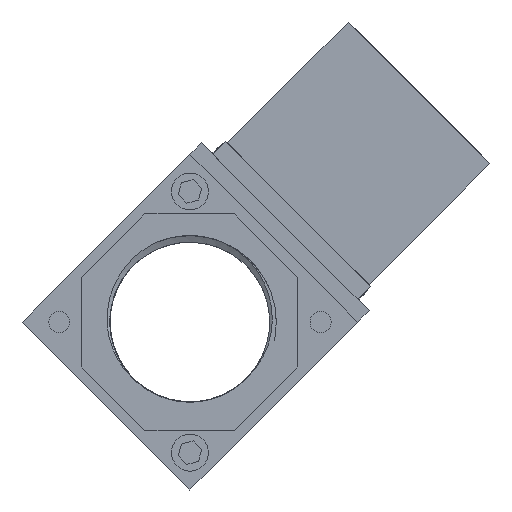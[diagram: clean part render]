
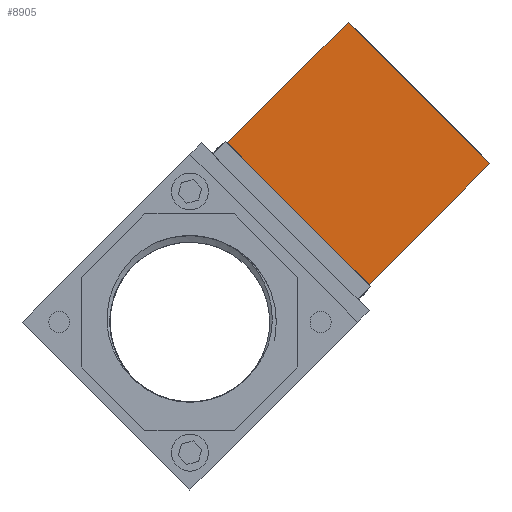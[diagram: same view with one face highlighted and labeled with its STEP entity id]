
A CAD part, left-side view. The second image highlights one B-rep face of the part: STEP entity #8905.
In plain terms, the highlighted planar face has unit normal (-1, 0, 0) as drawn and (1, 0, 0) by its records, which use the part's own axes.
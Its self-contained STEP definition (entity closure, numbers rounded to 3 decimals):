
#350 = LINE ( 'NONE', #3599, #14529 ) ;
#1004 = VERTEX_POINT ( 'NONE', #17317 ) ;
#1046 = EDGE_LOOP ( 'NONE', ( #15970, #2780, #10162, #20036 ) ) ;
#1639 = CARTESIAN_POINT ( 'NONE',  ( 57., 0., 38. ) ) ;
#1774 = DIRECTION ( 'NONE',  ( 0., 0., -1. ) ) ;
#2747 = LINE ( 'NONE', #4069, #11318 ) ;
#2780 = ORIENTED_EDGE ( 'NONE', *, *, #3190, .F. ) ;
#3041 = VERTEX_POINT ( 'NONE', #5398 ) ;
#3190 = EDGE_CURVE ( 'NONE', #1004, #3041, #350, .T. ) ;
#3599 = CARTESIAN_POINT ( 'NONE',  ( 57., 32.4, 38. ) ) ;
#4057 = EDGE_CURVE ( 'NONE', #11671, #3041, #19565, .T. ) ;
#4069 = CARTESIAN_POINT ( 'NONE',  ( 57., 0., 38. ) ) ;
#4595 = FACE_OUTER_BOUND ( 'NONE', #1046, .T. ) ;
#4922 = CARTESIAN_POINT ( 'NONE',  ( 57., 0., 0. ) ) ;
#5398 = CARTESIAN_POINT ( 'NONE',  ( 57., 32.4, 0. ) ) ;
#5486 = CARTESIAN_POINT ( 'NONE',  ( 57., 0., 0. ) ) ;
#6229 = DIRECTION ( 'NONE',  ( -1., 0., 0. ) ) ;
#7764 = PLANE ( 'NONE',  #12974 ) ;
#8542 = DIRECTION ( 'NONE',  ( 0., 1., 0. ) ) ;
#8905 = ADVANCED_FACE ( 'NONE', ( #4595 ), #7764, .F. ) ;
#9145 = DIRECTION ( 'NONE',  ( 0., 1., 0. ) ) ;
#9872 = DIRECTION ( 'NONE',  ( 0., 0., 1. ) ) ;
#10162 = ORIENTED_EDGE ( 'NONE', *, *, #15759, .F. ) ;
#10876 = CARTESIAN_POINT ( 'NONE',  ( 57., 0., 38. ) ) ;
#11318 = VECTOR ( 'NONE', #13353, 1000. ) ;
#11671 = VERTEX_POINT ( 'NONE', #4922 ) ;
#12974 = AXIS2_PLACEMENT_3D ( 'NONE', #1639, #6229, #9872 ) ;
#13353 = DIRECTION ( 'NONE',  ( 0., 0., -1. ) ) ;
#14529 = VECTOR ( 'NONE', #1774, 1000. ) ;
#14862 = VECTOR ( 'NONE', #8542, 1000. ) ;
#15027 = EDGE_CURVE ( 'NONE', #15131, #11671, #2747, .T. ) ;
#15131 = VERTEX_POINT ( 'NONE', #18252 ) ;
#15759 = EDGE_CURVE ( 'NONE', #15131, #1004, #16908, .T. ) ;
#15970 = ORIENTED_EDGE ( 'NONE', *, *, #4057, .T. ) ;
#16908 = LINE ( 'NONE', #10876, #17516 ) ;
#17317 = CARTESIAN_POINT ( 'NONE',  ( 57., 32.4, 38. ) ) ;
#17516 = VECTOR ( 'NONE', #9145, 1000. ) ;
#18252 = CARTESIAN_POINT ( 'NONE',  ( 57., 0., 38. ) ) ;
#19565 = LINE ( 'NONE', #5486, #14862 ) ;
#20036 = ORIENTED_EDGE ( 'NONE', *, *, #15027, .T. ) ;
